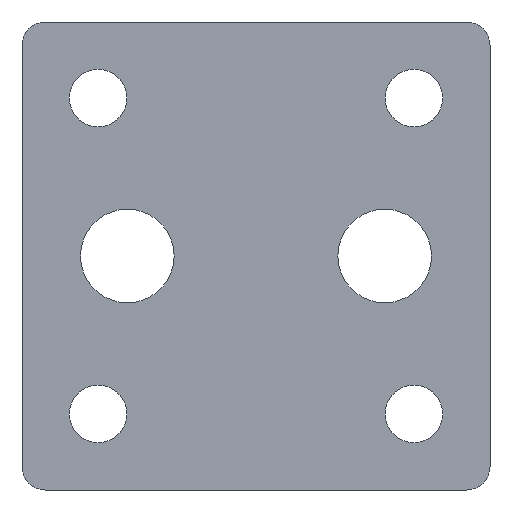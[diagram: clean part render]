
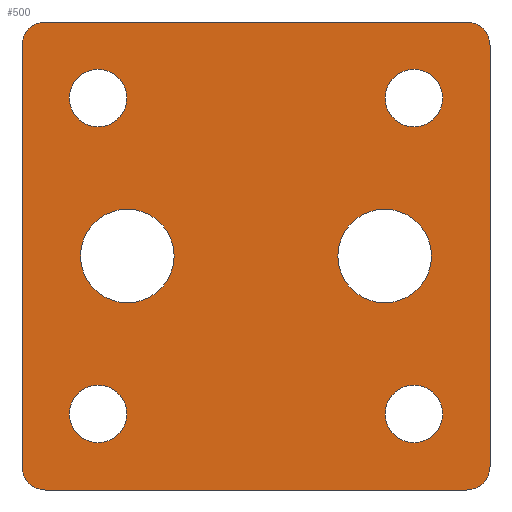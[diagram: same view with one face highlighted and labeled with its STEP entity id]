
A CAD part, front view. The second image highlights one B-rep face of the part: STEP entity #500.
In plain terms, the highlighted planar face has unit normal (0, -1, 0).
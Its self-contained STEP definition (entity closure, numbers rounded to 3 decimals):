
#19=FACE_BOUND('',#79,.T.);
#20=FACE_BOUND('',#80,.T.);
#21=FACE_BOUND('',#81,.T.);
#22=FACE_BOUND('',#82,.T.);
#23=FACE_BOUND('',#83,.T.);
#24=FACE_BOUND('',#84,.T.);
#33=PLANE('',#561);
#50=FACE_OUTER_BOUND('',#78,.T.);
#78=EDGE_LOOP('',(#405,#406,#407,#408,#409,#410,#411,#412));
#79=EDGE_LOOP('',(#413));
#80=EDGE_LOOP('',(#414));
#81=EDGE_LOOP('',(#415));
#82=EDGE_LOOP('',(#416));
#83=EDGE_LOOP('',(#417));
#84=EDGE_LOOP('',(#418));
#107=LINE('',#781,#145);
#118=LINE('',#822,#156);
#125=LINE('',#841,#163);
#126=LINE('',#847,#164);
#145=VECTOR('',#619,10.);
#156=VECTOR('',#658,10.);
#163=VECTOR('',#681,10.);
#164=VECTOR('',#690,10.);
#193=CIRCLE('',#555,2.);
#194=CIRCLE('',#557,2.);
#195=CIRCLE('',#560,2.);
#196=CIRCLE('',#562,2.);
#197=CIRCLE('',#563,2.459);
#198=CIRCLE('',#564,2.459);
#199=CIRCLE('',#565,2.459);
#200=CIRCLE('',#566,2.459);
#201=CIRCLE('',#567,4.);
#202=CIRCLE('',#568,4.);
#224=VERTEX_POINT('',#778);
#225=VERTEX_POINT('',#780);
#240=VERTEX_POINT('',#819);
#241=VERTEX_POINT('',#821);
#243=VERTEX_POINT('',#831);
#244=VERTEX_POINT('',#835);
#245=VERTEX_POINT('',#839);
#246=VERTEX_POINT('',#845);
#247=VERTEX_POINT('',#848);
#248=VERTEX_POINT('',#850);
#249=VERTEX_POINT('',#852);
#250=VERTEX_POINT('',#854);
#251=VERTEX_POINT('',#856);
#252=VERTEX_POINT('',#858);
#276=EDGE_CURVE('',#224,#225,#107,.T.);
#297=EDGE_CURVE('',#241,#240,#118,.T.);
#302=EDGE_CURVE('',#241,#243,#193,.T.);
#305=EDGE_CURVE('',#244,#240,#194,.T.);
#307=EDGE_CURVE('',#244,#245,#125,.T.);
#308=EDGE_CURVE('',#225,#245,#195,.T.);
#309=EDGE_CURVE('',#246,#224,#196,.T.);
#310=EDGE_CURVE('',#243,#246,#126,.T.);
#311=EDGE_CURVE('',#247,#247,#197,.T.);
#312=EDGE_CURVE('',#248,#248,#198,.T.);
#313=EDGE_CURVE('',#249,#249,#199,.T.);
#314=EDGE_CURVE('',#250,#250,#200,.T.);
#315=EDGE_CURVE('',#251,#251,#201,.T.);
#316=EDGE_CURVE('',#252,#252,#202,.T.);
#405=ORIENTED_EDGE('',*,*,#302,.F.);
#406=ORIENTED_EDGE('',*,*,#297,.T.);
#407=ORIENTED_EDGE('',*,*,#305,.F.);
#408=ORIENTED_EDGE('',*,*,#307,.T.);
#409=ORIENTED_EDGE('',*,*,#308,.F.);
#410=ORIENTED_EDGE('',*,*,#276,.F.);
#411=ORIENTED_EDGE('',*,*,#309,.F.);
#412=ORIENTED_EDGE('',*,*,#310,.F.);
#413=ORIENTED_EDGE('',*,*,#311,.T.);
#414=ORIENTED_EDGE('',*,*,#312,.T.);
#415=ORIENTED_EDGE('',*,*,#313,.T.);
#416=ORIENTED_EDGE('',*,*,#314,.T.);
#417=ORIENTED_EDGE('',*,*,#315,.T.);
#418=ORIENTED_EDGE('',*,*,#316,.T.);
#500=ADVANCED_FACE('',(#50,#19,#20,#21,#22,#23,#24),#33,.T.);
#555=AXIS2_PLACEMENT_3D('',#832,#670,#671);
#557=AXIS2_PLACEMENT_3D('',#837,#676,#677);
#560=AXIS2_PLACEMENT_3D('',#843,#684,#685);
#561=AXIS2_PLACEMENT_3D('',#844,#686,#687);
#562=AXIS2_PLACEMENT_3D('',#846,#688,#689);
#563=AXIS2_PLACEMENT_3D('',#849,#691,#692);
#564=AXIS2_PLACEMENT_3D('',#851,#693,#694);
#565=AXIS2_PLACEMENT_3D('',#853,#695,#696);
#566=AXIS2_PLACEMENT_3D('',#855,#697,#698);
#567=AXIS2_PLACEMENT_3D('',#857,#699,#700);
#568=AXIS2_PLACEMENT_3D('',#859,#701,#702);
#619=DIRECTION('',(0.,0.,-1.));
#658=DIRECTION('',(0.,0.,-1.));
#670=DIRECTION('center_axis',(0.,1.,0.));
#671=DIRECTION('ref_axis',(-0.707,0.,0.707));
#676=DIRECTION('center_axis',(0.,1.,0.));
#677=DIRECTION('ref_axis',(-0.707,0.,-0.707));
#681=DIRECTION('',(1.,0.,0.));
#684=DIRECTION('center_axis',(0.,1.,0.));
#685=DIRECTION('ref_axis',(0.707,0.,-0.707));
#686=DIRECTION('center_axis',(0.,-1.,0.));
#687=DIRECTION('ref_axis',(0.,0.,-1.));
#688=DIRECTION('center_axis',(0.,1.,0.));
#689=DIRECTION('ref_axis',(0.707,0.,0.707));
#690=DIRECTION('',(1.,0.,0.));
#691=DIRECTION('center_axis',(0.,1.,0.));
#692=DIRECTION('ref_axis',(1.,0.,0.));
#693=DIRECTION('center_axis',(0.,1.,0.));
#694=DIRECTION('ref_axis',(1.,0.,0.));
#695=DIRECTION('center_axis',(0.,1.,0.));
#696=DIRECTION('ref_axis',(1.,0.,0.));
#697=DIRECTION('center_axis',(0.,1.,0.));
#698=DIRECTION('ref_axis',(1.,0.,0.));
#699=DIRECTION('center_axis',(0.,1.,0.));
#700=DIRECTION('ref_axis',(1.,0.,0.));
#701=DIRECTION('center_axis',(0.,1.,0.));
#702=DIRECTION('ref_axis',(1.,0.,0.));
#778=CARTESIAN_POINT('',(40.,67.55,-399.45));
#780=CARTESIAN_POINT('',(40.,67.55,-435.45));
#781=CARTESIAN_POINT('',(40.,67.55,-397.45));
#819=CARTESIAN_POINT('',(0.,67.55,-435.45));
#821=CARTESIAN_POINT('',(0.,67.55,-399.45));
#822=CARTESIAN_POINT('',(0.,67.55,-397.45));
#831=CARTESIAN_POINT('',(2.,67.55,-397.45));
#832=CARTESIAN_POINT('Origin',(2.,67.55,-399.45));
#835=CARTESIAN_POINT('',(2.,67.55,-437.45));
#837=CARTESIAN_POINT('Origin',(2.,67.55,-435.45));
#839=CARTESIAN_POINT('',(38.,67.55,-437.45));
#841=CARTESIAN_POINT('',(0.,67.55,-437.45));
#843=CARTESIAN_POINT('Origin',(38.,67.55,-435.45));
#844=CARTESIAN_POINT('Origin',(0.,67.55,-397.45));
#845=CARTESIAN_POINT('',(38.,67.55,-397.45));
#846=CARTESIAN_POINT('Origin',(38.,67.55,-399.45));
#847=CARTESIAN_POINT('',(0.,67.55,-397.45));
#848=CARTESIAN_POINT('',(31.042,67.55,-430.95));
#849=CARTESIAN_POINT('Origin',(33.5,67.55,-430.95));
#850=CARTESIAN_POINT('',(4.042,67.55,-403.95));
#851=CARTESIAN_POINT('Origin',(6.5,67.55,-403.95));
#852=CARTESIAN_POINT('',(31.042,67.55,-403.95));
#853=CARTESIAN_POINT('Origin',(33.5,67.55,-403.95));
#854=CARTESIAN_POINT('',(4.041,67.55,-430.95));
#855=CARTESIAN_POINT('Origin',(6.5,67.55,-430.95));
#856=CARTESIAN_POINT('',(5.,67.55,-417.45));
#857=CARTESIAN_POINT('Origin',(9.,67.55,-417.45));
#858=CARTESIAN_POINT('',(27.,67.55,-417.45));
#859=CARTESIAN_POINT('Origin',(31.,67.55,-417.45));
